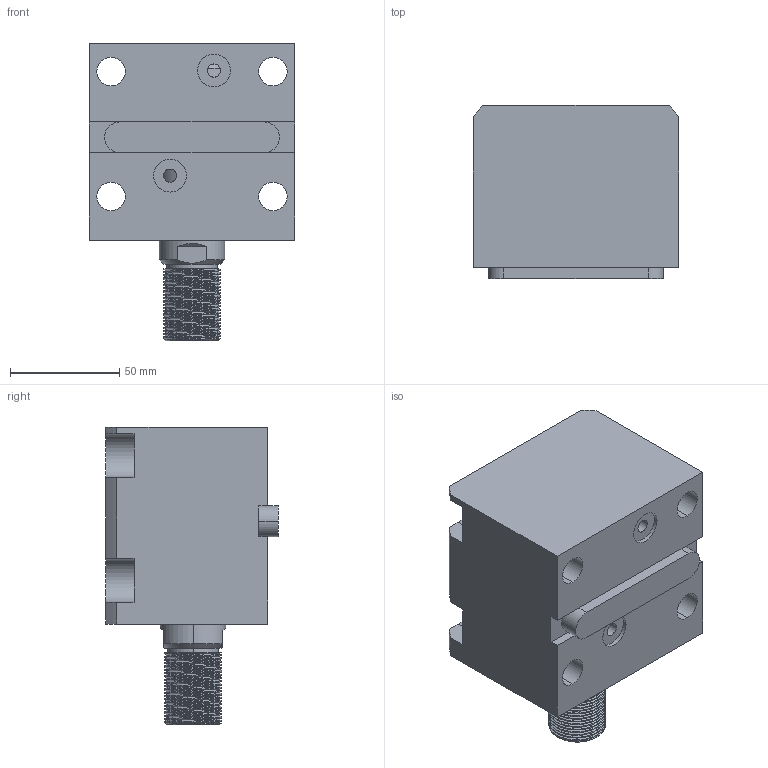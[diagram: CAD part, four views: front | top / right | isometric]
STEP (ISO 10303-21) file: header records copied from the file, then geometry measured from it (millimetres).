
FILE_DESCRIPTION (( 'STEP AP203' ), '1' );
FILE_NAME ('CHTB-LAM50-30W.STEP', '2018-05-23T10:15:03', ( '' ), ( '' ), 'SwSTEP 2.0', 'SolidWorks 2015', '' );
FILE_SCHEMA (( 'CONFIG_CONTROL_DESIGN' ));
Length unit declared in the file: millimetre
Products named in the file (4): CHTB-LAM50-30W; CHTM-SDMA50QG; 活塞杆LAM50-30W; 掛极LAM50-30W
Assembly tree (3 placements, depth 2):
  CHTB-LAM50-30W
    掛极LAM50-30W
    活塞杆LAM50-30W
    CHTM-SDMA50QG
Bounding box: 94 x 79 x 136 mm (x, y, z)
Volume: 560184 mm3; surface area: 103781.6 mm2
Topology: 3 solids, 3 shells, 234 faces, 652 edges, 436 vertices
Faces by surface type: cylinder 136, plane 53, bspline 16, torus 16, cone 13
Entity records: 14802 total; most frequent: CARTESIAN_POINT 8867, ORIENTED_EDGE 1296, DIRECTION 1023, EDGE_CURVE 648, VERTEX_POINT 436, AXIS2_PLACEMENT_3D 395, EDGE_LOOP 264, ADVANCED_FACE 234
